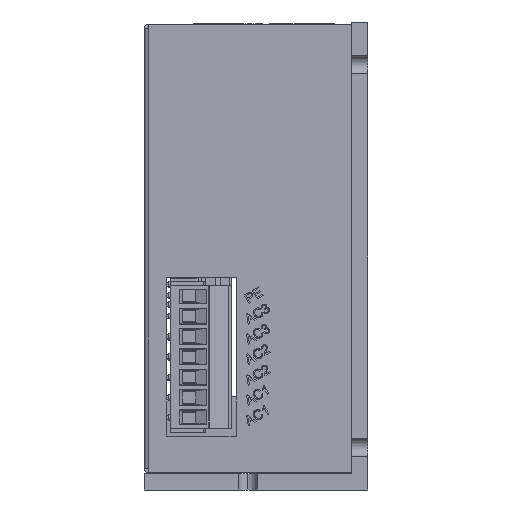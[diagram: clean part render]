
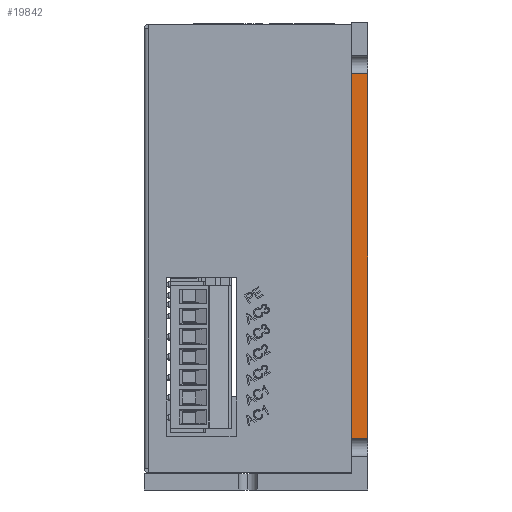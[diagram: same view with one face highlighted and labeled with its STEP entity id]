
A CAD part, left-side view. The second image highlights one B-rep face of the part: STEP entity #19842.
In plain terms, the highlighted planar face has unit normal (-1, 0, 0).
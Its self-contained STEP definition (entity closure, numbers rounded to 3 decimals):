
#2377 = PLANE ( 'NONE',  #32376 ) ;
#2789 = EDGE_CURVE ( 'NONE', #162694, #8717, #69230, .T. ) ;
#5372 = VECTOR ( 'NONE', #135874, 1000. ) ;
#8717 = VERTEX_POINT ( 'NONE', #70118 ) ;
#19842 = ADVANCED_FACE ( 'NONE', ( #94617 ), #2377, .T. ) ;
#22566 = CARTESIAN_POINT ( 'NONE',  ( -92.5, 4., 102.25 ) ) ;
#26586 = CARTESIAN_POINT ( 'NONE',  ( -92.5, 0., 12.75 ) ) ;
#29065 = CARTESIAN_POINT ( 'NONE',  ( -92.5, 0., 102.25 ) ) ;
#30005 = CARTESIAN_POINT ( 'NONE',  ( -92.5, 2., 12.75 ) ) ;
#30393 = ORIENTED_EDGE ( 'NONE', *, *, #92464, .T. ) ;
#32376 = AXIS2_PLACEMENT_3D ( 'NONE', #116905, #152760, #108901 ) ;
#36306 = CARTESIAN_POINT ( 'NONE',  ( -92.5, 0., 57.5 ) ) ;
#41465 = ORIENTED_EDGE ( 'NONE', *, *, #2789, .T. ) ;
#45700 = DIRECTION ( 'NONE',  ( 0., 0., -1. ) ) ;
#45721 = CARTESIAN_POINT ( 'NONE',  ( -92.5, 4., 59.5 ) ) ;
#49753 = ORIENTED_EDGE ( 'NONE', *, *, #99189, .T. ) ;
#57969 = EDGE_CURVE ( 'NONE', #8717, #93889, #67729, .T. ) ;
#67729 = LINE ( 'NONE', #30005, #5372 ) ;
#69230 = LINE ( 'NONE', #45721, #108536 ) ;
#70118 = CARTESIAN_POINT ( 'NONE',  ( -92.5, 4., 12.75 ) ) ;
#71765 = VERTEX_POINT ( 'NONE', #29065 ) ;
#87480 = LINE ( 'NONE', #36306, #149454 ) ;
#91833 = LINE ( 'NONE', #165523, #153821 ) ;
#92464 = EDGE_CURVE ( 'NONE', #71765, #162694, #91833, .T. ) ;
#93889 = VERTEX_POINT ( 'NONE', #26586 ) ;
#94617 = FACE_OUTER_BOUND ( 'NONE', #159700, .T. ) ;
#99189 = EDGE_CURVE ( 'NONE', #93889, #71765, #87480, .T. ) ;
#108536 = VECTOR ( 'NONE', #45700, 1000. ) ;
#108901 = DIRECTION ( 'NONE',  ( 0., 0., 1. ) ) ;
#112942 = DIRECTION ( 'NONE',  ( 0., 1., 0. ) ) ;
#116905 = CARTESIAN_POINT ( 'NONE',  ( -92.5, 0., 12.75 ) ) ;
#128640 = ORIENTED_EDGE ( 'NONE', *, *, #57969, .T. ) ;
#135874 = DIRECTION ( 'NONE',  ( 0., -1., 0. ) ) ;
#149454 = VECTOR ( 'NONE', #155456, 1000. ) ;
#152760 = DIRECTION ( 'NONE',  ( -1., 0., 0. ) ) ;
#153821 = VECTOR ( 'NONE', #112942, 1000. ) ;
#155456 = DIRECTION ( 'NONE',  ( 0., 0., 1. ) ) ;
#159700 = EDGE_LOOP ( 'NONE', ( #30393, #41465, #128640, #49753 ) ) ;
#162694 = VERTEX_POINT ( 'NONE', #22566 ) ;
#165523 = CARTESIAN_POINT ( 'NONE',  ( -92.5, 2., 102.25 ) ) ;
